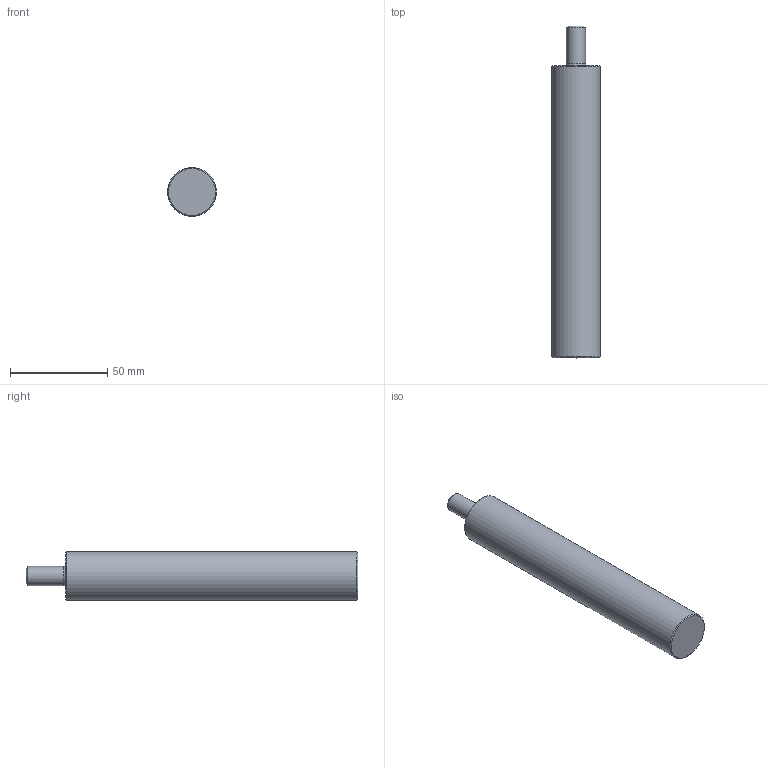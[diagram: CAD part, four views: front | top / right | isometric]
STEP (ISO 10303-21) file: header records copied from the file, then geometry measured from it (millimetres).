
FILE_DESCRIPTION(/* description */ (''),/* implementation_level */ '2;1');
FILE_NAME(/* name */ 'BM01-25D-150L.step',/* time_stamp */ '2023-10-24T13:49:09+09:00',/* author */ (''),/* organization */ (''),/* preprocessor_version */ 'ST-DEVELOPER v20',/* originating_system */ 'Autodesk Translation Framework v12.14.0.127',/* authorisation */ '');
FILE_SCHEMA (('AUTOMOTIVE_DESIGN { 1 0 10303 214 3 1 1 }'));
Length unit declared in the file: millimetre
Products named in the file (1): BM01-25D-150L
Bounding box: 25 x 170.5 x 25 mm (x, y, z)
Volume: 75166.3 mm3; surface area: 13318.2 mm2
Topology: 1 solids, 1 shells, 9 faces, 15 edges, 9 vertices
Faces by surface type: cone 3, plane 3, cylinder 2, torus 1
Full cylindrical faces by diameter (mm): 9.85 x1, 25 x1
Entity records: 255 total; most frequent: DIRECTION 45, CARTESIAN_POINT 34, ORIENTED_EDGE 30, AXIS2_PLACEMENT_3D 20, EDGE_CURVE 15, EDGE_LOOP 10, CIRCLE 10, FACE_OUTER_BOUND 9
